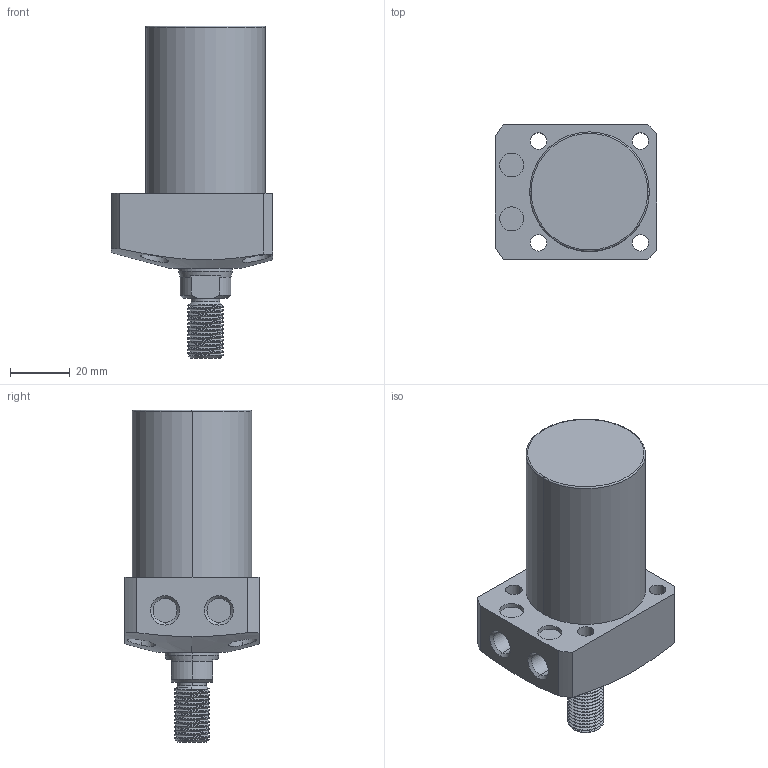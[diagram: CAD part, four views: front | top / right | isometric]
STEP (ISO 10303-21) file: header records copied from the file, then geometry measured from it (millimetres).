
FILE_DESCRIPTION (( 'STEP AP203' ), '1' );
FILE_NAME ('CLL-040CT-045.STEP', '2020-01-08T09:01:37', ( '' ), ( '' ), 'SwSTEP 2.0', 'SolidWorks 2015', '' );
FILE_SCHEMA (( 'CONFIG_CONTROL_DESIGN' ));
Length unit declared in the file: millimetre
Products named in the file (1): CLL-040CT-045
Bounding box: 54 x 45 x 111 mm (x, y, z)
Volume: 124732.7 mm3; surface area: 19855.9 mm2
Topology: 1 solids, 1 shells, 106 faces, 267 edges, 174 vertices
Faces by surface type: cylinder 63, plane 23, cone 16, torus 2, bspline 2
Entity records: 5226 total; most frequent: CARTESIAN_POINT 2744, ORIENTED_EDGE 534, DIRECTION 472, EDGE_CURVE 267, AXIS2_PLACEMENT_3D 189, VERTEX_POINT 174, EDGE_LOOP 125, FACE_OUTER_BOUND 106
